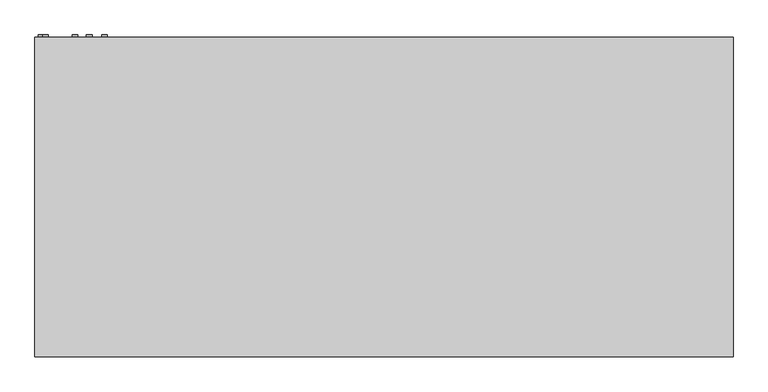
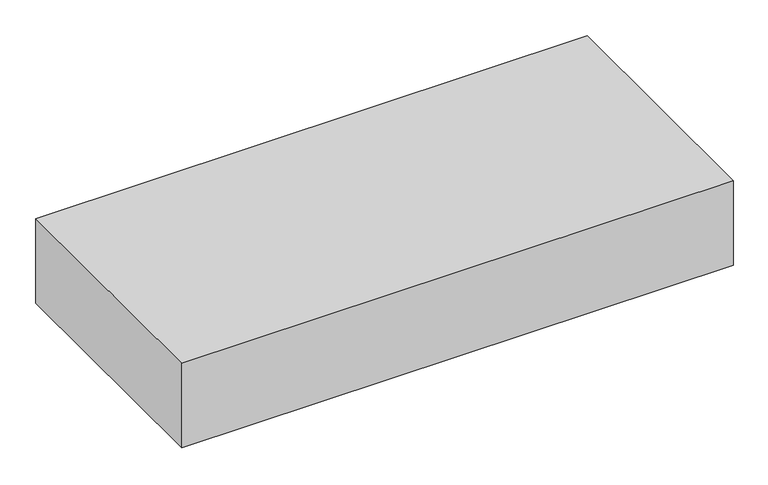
"""IFC4 building model written with IfcOpenShell, lengths in millimetres: proxy geometry, Exposed_Horizontal_Fan_Coil_Unit_-_42CGB_-_CARRIER_-_4-Pipe_BS-BR_LH_2022 : Size 10 - 277v/60Hz/1Ph - 4/1 Coil."""

from ifc_helpers import new_model, si_unit, point, frame, frame_2d, origin, place, context, project, spatial, polyline, circle_curve, trimmed, segment, composite_curve, outline, extrude, source, transform, mapped, element, save


def mechanical_equipment_6dd201c2(model_context):
    return source(origin(), model_context, "Body", "SweptSolid", [
        extrude(outline(polyline([(814.3875, -433.3875), (814.3875, -604.8375), (-509.5875, -604.8375), (-509.5875, -433.3875), (814.3875, -433.3875)])), frame((0.0, 0.0, -311.15), z_axis=(0.0, 0.0, 1.0), x_axis=(1.0, 0.0, 0.0)), (0.0, 0.0, 1.0), 6.35),
        extrude(outline(composite_curve([segment(trimmed(circle_curve(frame_2d((-261.434158, -768.5546393)), 9.525), [point((-261.434158, -759.0296393))], [point((-261.434158, -778.0796393))], False, "CARTESIAN"), True, "CONTINUOUS"), segment(trimmed(circle_curve(frame_2d((-261.434158, -768.5546393)), 9.525), [point((-261.434158, -778.0796393))], [point((-261.434158, -759.0296393))], False, "CARTESIAN"), True, "CONTINUOUS")], self_intersect=False)), frame((0.0, 192.0875, 0.0), z_axis=(0.0, 1.0, 0.0), x_axis=(0.0, 0.0, 1.0)), (0.0, 0.0, 1.0), 6.35),
        extrude(outline(composite_curve([segment(trimmed(circle_curve(frame_2d((-85.725, -758.825)), 7.9375), [point((-85.725, -750.8875))], [point((-85.725, -766.7625))], False, "CARTESIAN"), True, "CONTINUOUS"), segment(trimmed(circle_curve(frame_2d((-85.725, -758.825)), 7.9375), [point((-85.725, -766.7625))], [point((-85.725, -750.8875))], False, "CARTESIAN"), True, "CONTINUOUS")], self_intersect=False)), frame((0.0, 192.0875, 0.0), z_axis=(0.0, 1.0, 0.0), x_axis=(0.0, 0.0, 1.0)), (0.0, 0.0, 1.0), 6.35),
        extrude(outline(composite_curve([segment(trimmed(circle_curve(frame_2d((-44.45, -679.45)), 7.9375), [point((-44.45, -671.5125))], [point((-44.45, -687.3875))], False, "CARTESIAN"), True, "CONTINUOUS"), segment(trimmed(circle_curve(frame_2d((-44.45, -679.45)), 7.9375), [point((-44.45, -687.3875))], [point((-44.45, -671.5125))], False, "CARTESIAN"), True, "CONTINUOUS")], self_intersect=False)), frame((0.0, 192.0875, 0.0), z_axis=(0.0, 1.0, 0.0), x_axis=(0.0, 0.0, 1.0)), (0.0, 0.0, 1.0), 6.35),
        extrude(outline(composite_curve([segment(trimmed(circle_curve(frame_2d((-95.25, -641.35)), 7.9375), [point((-95.25, -633.4125))], [point((-95.25, -649.2875))], False, "CARTESIAN"), True, "CONTINUOUS"), segment(trimmed(circle_curve(frame_2d((-95.25, -641.35)), 7.9375), [point((-95.25, -649.2875))], [point((-95.25, -633.4125))], False, "CARTESIAN"), True, "CONTINUOUS")], self_intersect=False)), frame((0.0, 192.0875, 0.0), z_axis=(0.0, 1.0, 0.0), x_axis=(0.0, 0.0, 1.0)), (0.0, 0.0, 1.0), 6.35),
        extrude(outline(composite_curve([segment(trimmed(circle_curve(frame_2d((-60.325, -600.075)), 7.9375), [point((-60.325, -592.1375))], [point((-60.325, -608.0125))], False, "CARTESIAN"), True, "CONTINUOUS"), segment(trimmed(circle_curve(frame_2d((-60.325, -600.075)), 7.9375), [point((-60.325, -608.0125))], [point((-60.325, -592.1375))], False, "CARTESIAN"), True, "CONTINUOUS")], self_intersect=False)), frame((0.0, 192.0875, 0.0), z_axis=(0.0, 1.0, 0.0), x_axis=(0.0, 0.0, 1.0)), (0.0, 0.0, 1.0), 6.35),
        extrude(outline(polyline([(-787.4, 192.0875), (1092.2, 192.0875), (1092.2, -668.3375), (-787.4, -668.3375), (-787.4, 192.0875)])), frame((0.0, 0.0, -304.8), z_axis=(0.0, 0.0, 1.0), x_axis=(1.0, 0.0, 0.0)), (0.0, 0.0, 1.0), 304.8),
        extrude(outline(polyline([(844.55, 115.8875), (844.55, -138.1125), (-539.75, -138.1125), (-539.75, 115.8875), (844.55, 115.8875)])), frame((0.0, 0.0, -311.15), z_axis=(0.0, 0.0, 1.0), x_axis=(1.0, 0.0, 0.0)), (0.0, 0.0, 1.0), 6.35),
    ])


if __name__ == "__main__":
    model = new_model("IFC4")
    model_context = context("Model", 3, world=origin())
    ifc_project = project(units=[si_unit("LENGTHUNIT", "METRE", prefix="MILLI")], contexts=[model_context])
    site = spatial("IfcSite", under=ifc_project)
    building = spatial("IfcBuilding", under=site)
    placement = place(None, origin())
    mechanical_equipment_shape = mechanical_equipment_6dd201c2(model_context)
    element("IfcBuildingElementProxy", 1, Name="Exposed_Horizontal_Fan_Coil_Unit_-_42CGB_-_CARRIER_-_4-Pipe_BS-BR_LH_2022 : Size 10 - 277v/60Hz/1Ph - 4/1 Coil", ObjectType="Exposed_Horizontal_Fan_Coil_Unit_-_42CGB_-_CARRIER_-_4-Pipe_BS-BR_LH_2022 : Size 10 - 277v/60Hz/1Ph - 4/1 Coil", at=placement, inside=building, context=model_context, shape_type="MappedRepresentation", body=[
        mapped(mechanical_equipment_shape, transform((0.0, 0.0, 0.0), x_axis=(1.0, 0.0, 0.0), y_axis=(0.0, 1.0, 0.0), z_axis=(0.0, 0.0, 1.0))),
    ])
    save(model, "model.ifc")
